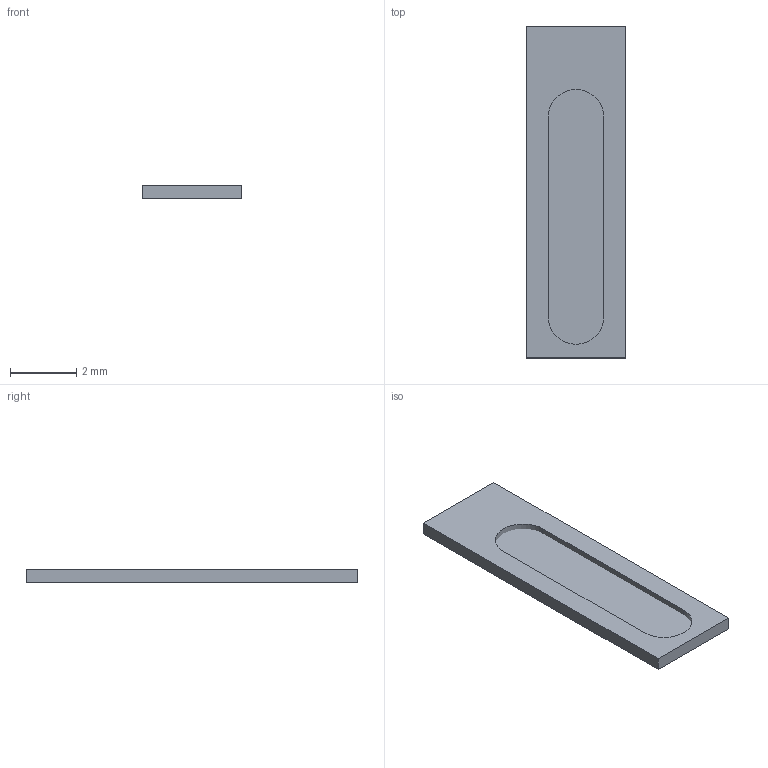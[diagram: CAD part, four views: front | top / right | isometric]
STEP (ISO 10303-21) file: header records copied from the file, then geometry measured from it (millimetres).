
FILE_DESCRIPTION (( 'STEP AP214' ), '1' );
FILE_NAME ('SKR0710+Omni_Gasket+Mesh.STEP', '2025-07-07T20:01:44', ( '' ), ( '' ), 'SwSTEP 2.0', 'SolidWorks 2025', '' );
FILE_SCHEMA (( 'AUTOMOTIVE_DESIGN' ));
Length unit declared in the file: millimetre
Products named in the file (3): Mesh; Gasket; SKR0710+Omni_Gasket+Mesh
Assembly tree (2 placements, depth 2):
  SKR0710+Omni_Gasket+Mesh
    Gasket
    Mesh
Bounding box: 3 x 10 x 0.4 mm (x, y, z)
Volume: 9.7 mm3; surface area: 112.4 mm2
Topology: 2 solids, 2 shells, 26 faces, 60 edges, 40 vertices
Faces by surface type: plane 24, cylinder 2
Entity records: 842 total; most frequent: CARTESIAN_POINT 131, DIRECTION 126, ORIENTED_EDGE 120, EDGE_CURVE 60, LINE 56, VECTOR 56, VERTEX_POINT 40, AXIS2_PLACEMENT_3D 35
